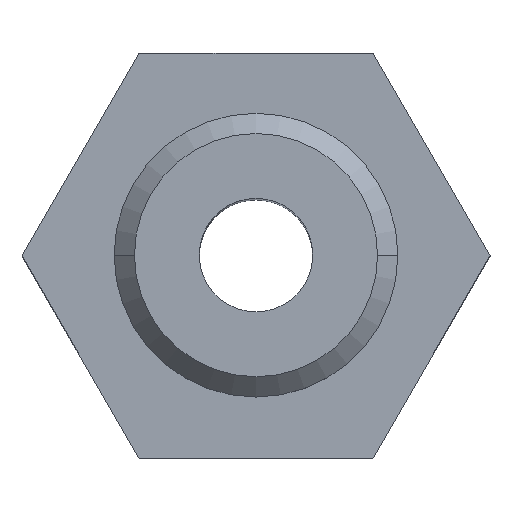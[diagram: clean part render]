
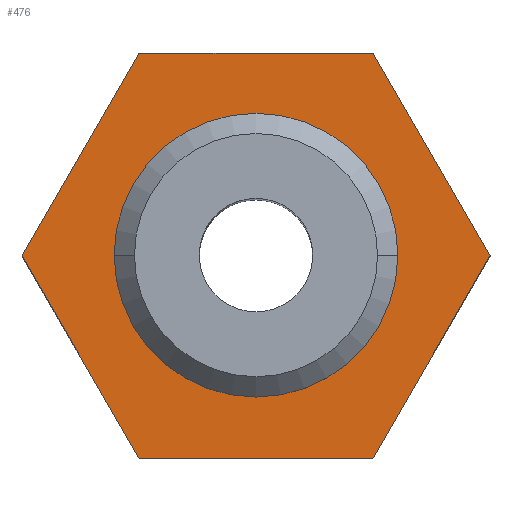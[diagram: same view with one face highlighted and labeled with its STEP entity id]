
A CAD part, top view. The second image highlights one B-rep face of the part: STEP entity #476.
In plain terms, the highlighted planar face has unit normal (0, 0, 1).
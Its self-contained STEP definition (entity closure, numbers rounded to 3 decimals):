
#9 = VERTEX_POINT ( 'NONE', #202 ) ;
#11 = AXIS2_PLACEMENT_3D ( 'NONE', #515, #565, #425 ) ;
#19 = ORIENTED_EDGE ( 'NONE', *, *, #342, .F. ) ;
#20 = DIRECTION ( 'NONE',  ( 0., 0., 1. ) ) ;
#42 = EDGE_CURVE ( 'NONE', #45, #9, #52, .T. ) ;
#45 = VERTEX_POINT ( 'NONE', #632 ) ;
#52 = LINE ( 'NONE', #449, #431 ) ;
#55 = EDGE_CURVE ( 'NONE', #198, #117, #645, .T. ) ;
#57 = VERTEX_POINT ( 'NONE', #596 ) ;
#63 = DIRECTION ( 'NONE',  ( 1., 0., 0. ) ) ;
#90 = AXIS2_PLACEMENT_3D ( 'NONE', #320, #525, #63 ) ;
#116 = CARTESIAN_POINT ( 'NONE',  ( -5.774, 0., 9. ) ) ;
#117 = VERTEX_POINT ( 'NONE', #116 ) ;
#127 = AXIS2_PLACEMENT_3D ( 'NONE', #287, #20, #594 ) ;
#141 = LINE ( 'NONE', #461, #445 ) ;
#152 = ORIENTED_EDGE ( 'NONE', *, *, #348, .T. ) ;
#157 = VECTOR ( 'NONE', #667, 1000. ) ;
#175 = DIRECTION ( 'NONE',  ( -1., 0., 0. ) ) ;
#177 = CARTESIAN_POINT ( 'NONE',  ( -2.887, 5., 9. ) ) ;
#191 = EDGE_CURVE ( 'NONE', #57, #45, #141, .T. ) ;
#198 = VERTEX_POINT ( 'NONE', #359 ) ;
#199 = LINE ( 'NONE', #372, #157 ) ;
#202 = CARTESIAN_POINT ( 'NONE',  ( 5.774, 0., 9. ) ) ;
#217 = EDGE_CURVE ( 'NONE', #459, #465, #314, .T. ) ;
#222 = ORIENTED_EDGE ( 'NONE', *, *, #217, .F. ) ;
#233 = CARTESIAN_POINT ( 'NONE',  ( 2.887, 5., 9. ) ) ;
#241 = EDGE_CURVE ( 'NONE', #117, #57, #199, .T. ) ;
#242 = LINE ( 'NONE', #233, #629 ) ;
#263 = DIRECTION ( 'NONE',  ( 0.5, 0.866, 0. ) ) ;
#284 = CARTESIAN_POINT ( 'NONE',  ( -2.75, 0., 9. ) ) ;
#287 = CARTESIAN_POINT ( 'NONE',  ( 0., 0., 9. ) ) ;
#292 = CARTESIAN_POINT ( 'NONE',  ( 2.75, 0., 9. ) ) ;
#314 = CIRCLE ( 'NONE', #11, 2.75 ) ;
#320 = CARTESIAN_POINT ( 'NONE',  ( 0., 0., 9. ) ) ;
#322 = DIRECTION ( 'NONE',  ( -0.5, -0.866, 0. ) ) ;
#342 = EDGE_CURVE ( 'NONE', #465, #459, #400, .T. ) ;
#348 = EDGE_CURVE ( 'NONE', #9, #521, #630, .T. ) ;
#349 = PLANE ( 'NONE',  #127 ) ;
#353 = FACE_BOUND ( 'NONE', #513, .T. ) ;
#359 = CARTESIAN_POINT ( 'NONE',  ( -2.887, 5., 9. ) ) ;
#372 = CARTESIAN_POINT ( 'NONE',  ( -5.774, 0., 9. ) ) ;
#400 = CIRCLE ( 'NONE', #90, 2.75 ) ;
#406 = ORIENTED_EDGE ( 'NONE', *, *, #55, .T. ) ;
#425 = DIRECTION ( 'NONE',  ( 1., 0., 0. ) ) ;
#427 = ORIENTED_EDGE ( 'NONE', *, *, #42, .T. ) ;
#431 = VECTOR ( 'NONE', #263, 1000. ) ;
#441 = EDGE_CURVE ( 'NONE', #521, #198, #242, .T. ) ;
#445 = VECTOR ( 'NONE', #599, 1000. ) ;
#446 = ORIENTED_EDGE ( 'NONE', *, *, #441, .T. ) ;
#449 = CARTESIAN_POINT ( 'NONE',  ( 2.887, -5., 9. ) ) ;
#450 = CARTESIAN_POINT ( 'NONE',  ( 2.887, 5., 9. ) ) ;
#456 = EDGE_LOOP ( 'NONE', ( #427, #152, #446, #406, #648, #611 ) ) ;
#459 = VERTEX_POINT ( 'NONE', #284 ) ;
#461 = CARTESIAN_POINT ( 'NONE',  ( -2.887, -5., 9. ) ) ;
#465 = VERTEX_POINT ( 'NONE', #292 ) ;
#476 = ADVANCED_FACE ( 'NONE', ( #353, #495 ), #349, .T. ) ;
#488 = CARTESIAN_POINT ( 'NONE',  ( 5.774, 0., 9. ) ) ;
#495 = FACE_OUTER_BOUND ( 'NONE', #456, .T. ) ;
#513 = EDGE_LOOP ( 'NONE', ( #222, #19 ) ) ;
#515 = CARTESIAN_POINT ( 'NONE',  ( 0., 0., 9. ) ) ;
#521 = VERTEX_POINT ( 'NONE', #450 ) ;
#525 = DIRECTION ( 'NONE',  ( 0., 0., 1. ) ) ;
#529 = DIRECTION ( 'NONE',  ( -0.5, 0.866, 0. ) ) ;
#536 = VECTOR ( 'NONE', #529, 1000. ) ;
#560 = VECTOR ( 'NONE', #322, 1000. ) ;
#565 = DIRECTION ( 'NONE',  ( 0., 0., 1. ) ) ;
#594 = DIRECTION ( 'NONE',  ( 1., 0., 0. ) ) ;
#596 = CARTESIAN_POINT ( 'NONE',  ( -2.887, -5., 9. ) ) ;
#599 = DIRECTION ( 'NONE',  ( 1., 0., 0. ) ) ;
#611 = ORIENTED_EDGE ( 'NONE', *, *, #191, .T. ) ;
#629 = VECTOR ( 'NONE', #175, 1000. ) ;
#630 = LINE ( 'NONE', #488, #536 ) ;
#632 = CARTESIAN_POINT ( 'NONE',  ( 2.887, -5., 9. ) ) ;
#645 = LINE ( 'NONE', #177, #560 ) ;
#648 = ORIENTED_EDGE ( 'NONE', *, *, #241, .T. ) ;
#667 = DIRECTION ( 'NONE',  ( 0.5, -0.866, 0. ) ) ;
